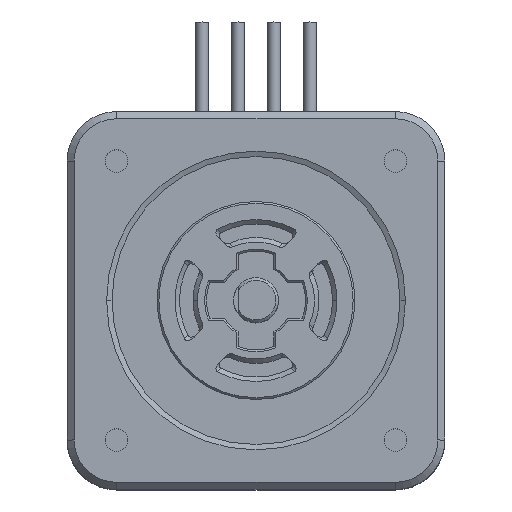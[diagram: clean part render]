
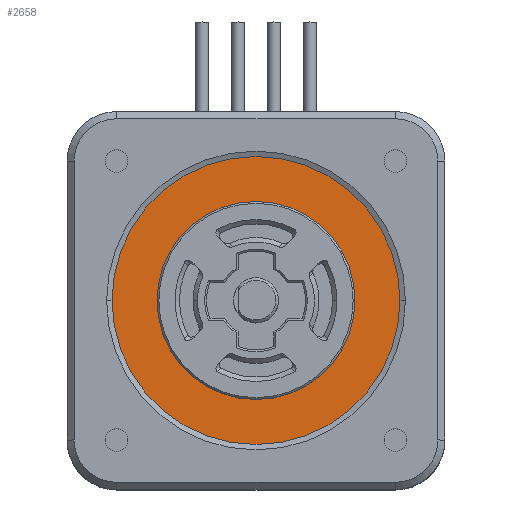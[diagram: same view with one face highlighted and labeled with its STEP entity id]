
A CAD part, top view. The second image highlights one B-rep face of the part: STEP entity #2658.
In plain terms, the highlighted planar face has unit normal (0, 0, 1).
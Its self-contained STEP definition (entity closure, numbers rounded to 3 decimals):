
#1459 = ORIENTED_EDGE ( 'NONE', *, *, #2405, .F. ) ;
#1460 = ORIENTED_EDGE ( 'NONE', *, *, #2406, .T. ) ;
#1462 = ORIENTED_EDGE ( 'NONE', *, *, #2649, .F. ) ;
#1464 = ORIENTED_EDGE ( 'NONE', *, *, #2644, .T. ) ;
#2405 = EDGE_CURVE ( 'NONE', #3591, #3582, #10253, .T. ) ;
#2406 = EDGE_CURVE ( 'NONE', #3586, #3593, #10202, .T. ) ;
#2644 = EDGE_CURVE ( 'NONE', #3593, #3586, #8112, .T. ) ;
#2649 = EDGE_CURVE ( 'NONE', #3582, #3591, #8114, .T. ) ;
#2658 = ADVANCED_FACE ( 'NONE', ( #5485, #5486 ), #8907, .T. ) ;
#3375 = EDGE_LOOP ( 'NONE', ( #1460, #1464 ) ) ;
#3389 = EDGE_LOOP ( 'NONE', ( #1459, #1462 ) ) ;
#3582 = VERTEX_POINT ( 'NONE', #9139 ) ;
#3586 = VERTEX_POINT ( 'NONE', #9143 ) ;
#3591 = VERTEX_POINT ( 'NONE', #9148 ) ;
#3593 = VERTEX_POINT ( 'NONE', #9150 ) ;
#5485 = FACE_BOUND ( 'NONE', #3389, .T. ) ;
#5486 = FACE_OUTER_BOUND ( 'NONE', #3375, .T. ) ;
#7602 = CARTESIAN_POINT ( 'NONE',  ( 0., 0., -0.3 ) ) ;
#7603 = DIRECTION ( 'NONE',  ( 0., 0., 1. ) ) ;
#7604 = DIRECTION ( 'NONE',  ( 1., 0., 0. ) ) ;
#7605 = CARTESIAN_POINT ( 'NONE',  ( 0., 0., -0.3 ) ) ;
#7606 = DIRECTION ( 'NONE',  ( 0., 0., 1. ) ) ;
#7607 = DIRECTION ( 'NONE',  ( 1., 0., 0. ) ) ;
#8112 = CIRCLE ( 'NONE', #8124, 16. ) ;
#8114 = CIRCLE ( 'NONE', #8131, 11. ) ;
#8124 = AXIS2_PLACEMENT_3D ( 'NONE', #8862, #8863, #8864 ) ;
#8131 = AXIS2_PLACEMENT_3D ( 'NONE', #8879, #8880, #8881 ) ;
#8140 = AXIS2_PLACEMENT_3D ( 'NONE', #8908, #8909, #8910 ) ;
#8862 = CARTESIAN_POINT ( 'NONE',  ( 0., 0., -0.3 ) ) ;
#8863 = DIRECTION ( 'NONE',  ( 0., 0., 1. ) ) ;
#8864 = DIRECTION ( 'NONE',  ( 1., 0., 0. ) ) ;
#8879 = CARTESIAN_POINT ( 'NONE',  ( 0., 0., -0.3 ) ) ;
#8880 = DIRECTION ( 'NONE',  ( 0., 0., 1. ) ) ;
#8881 = DIRECTION ( 'NONE',  ( 1., 0., 0. ) ) ;
#8907 = PLANE ( 'NONE',  #8140 ) ;
#8908 = CARTESIAN_POINT ( 'NONE',  ( 0., 0., -0.3 ) ) ;
#8909 = DIRECTION ( 'NONE',  ( 0., 0., 1. ) ) ;
#8910 = DIRECTION ( 'NONE',  ( 1., 0., 0. ) ) ;
#9139 = CARTESIAN_POINT ( 'NONE',  ( 11., 0., -0.3 ) ) ;
#9143 = CARTESIAN_POINT ( 'NONE',  ( 16., 0., -0.3 ) ) ;
#9148 = CARTESIAN_POINT ( 'NONE',  ( -11., 0., -0.3 ) ) ;
#9150 = CARTESIAN_POINT ( 'NONE',  ( -16., 0., -0.3 ) ) ;
#10202 = CIRCLE ( 'NONE', #10232, 16. ) ;
#10219 = AXIS2_PLACEMENT_3D ( 'NONE', #7602, #7603, #7604 ) ;
#10232 = AXIS2_PLACEMENT_3D ( 'NONE', #7605, #7606, #7607 ) ;
#10253 = CIRCLE ( 'NONE', #10219, 11. ) ;
